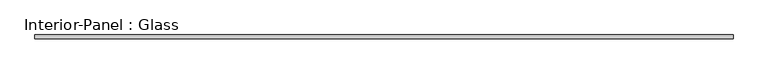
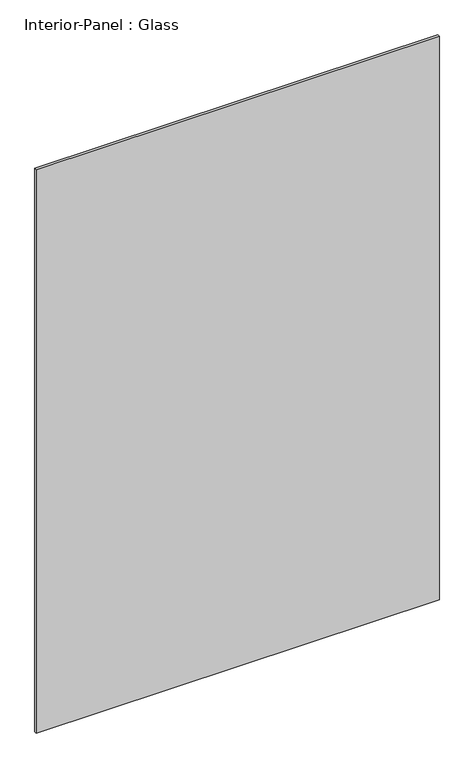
"""IFC4 building model written with IfcOpenShell, lengths in millimetres: plate geometry, Interior-Panel : Glass."""

import ifcopenshell
import ifcopenshell.guid

model = None  # the IFC model being written
_history = None  # IfcOwnerHistory: only IFC2X3 demands one
_inside = {}  # id of a spatial element -> (the spatial element, [elements in it])
_under = {}  # id of a project, library or spatial element -> (it, [spatial elements below it])
_declared = {}  # id of a project -> (the project, [libraries it declares])
_typed = {}  # id of a type object -> (the type object, [elements of that type])
_made_of = {}  # id of a material, layer set ... -> (it, [elements and type objects made of it])


def new_model(schema):
    """Start an empty IFC model of exactly this schema.

    Asked for "IFC4X3", IfcOpenShell would pick the latest addendum, in which some entities
    have other attributes; the version numbers below select the first issue.
    IFC2X3 requires an IfcOwnerHistory on every rooted entity: one is made here for all.
    """
    global model, _history
    if schema == "IFC4X3":
        model = ifcopenshell.file(schema_version=(4, 3, 0, 0))
    else:
        model = ifcopenshell.file(schema=schema)
    _inside.clear()
    _under.clear()
    _declared.clear()
    _typed.clear()
    _made_of.clear()
    _history = None
    if model.schema == "IFC2X3":
        org = make("IfcOrganization", Name="unknown")
        user = make(
            "IfcPersonAndOrganization",
            ThePerson=make("IfcPerson", FamilyName="unknown"),
            TheOrganization=org,
        )
        app = make(
            "IfcApplication",
            ApplicationDeveloper=org,
            Version="unknown",
            ApplicationFullName="unknown",
            ApplicationIdentifier="unknown",
        )
        _history = make(
            "IfcOwnerHistory",
            OwningUser=user,
            OwningApplication=app,
            ChangeAction="ADDED",
            CreationDate=0,
        )
    return model


def make(cls, **values):
    """One entity of the class cls with the attributes given. An attribute that is None is left unset."""
    return model.create_entity(
        cls, **{name: value for name, value in values.items() if value is not None}
    )


def rooted(cls, **values):
    """An entity with a GlobalId (a new one), such as an element, a storey or a relation."""
    return make(cls, GlobalId=ifcopenshell.guid.new(), OwnerHistory=_history, **values)


def si_unit(unit_type, name, prefix=None):
    """IfcSIUnit, for example si_unit("LENGTHUNIT", "METRE", prefix="MILLI")."""
    return make("IfcSIUnit", UnitType=unit_type, Prefix=prefix, Name=name)


def assignment(units):
    """IfcUnitAssignment: the units of a project."""
    return None if units is None else make("IfcUnitAssignment", Units=units)


def point(xyz):
    """IfcCartesianPoint."""
    return None if xyz is None else make("IfcCartesianPoint", Coordinates=xyz)


def direction(xyz):
    """IfcDirection."""
    return None if xyz is None else make("IfcDirection", DirectionRatios=xyz)


def frame(location, z_axis=None, x_axis=None):
    """IfcAxis2Placement3D, a coordinate frame: its origin and axes. An axis left out is left unset."""
    return make(
        "IfcAxis2Placement3D",
        Location=point(location),
        Axis=direction(z_axis),
        RefDirection=direction(x_axis),
    )


def origin():
    """The frame at (0, 0, 0) with its axes left unset."""
    return frame((0.0, 0.0, 0.0))


def origin_with_axes():
    """The frame at (0, 0, 0) with the z axis (0, 0, 1) and the x axis (1, 0, 0) written out."""
    return frame((0.0, 0.0, 0.0), z_axis=(0.0, 0.0, 1.0), x_axis=(1.0, 0.0, 0.0))


def place(relative_to, where):
    """IfcLocalPlacement: puts the frame where relative to a parent placement (None: the world)."""
    return make(
        "IfcLocalPlacement", PlacementRelTo=relative_to, RelativePlacement=where
    )


def context(
    kind, dimensions, precision=None, world=None, true_north=None, identifier=None
):
    """IfcGeometricRepresentationContext, for example the 3D "Model" context."""
    return make(
        "IfcGeometricRepresentationContext",
        ContextIdentifier=identifier,
        ContextType=kind,
        CoordinateSpaceDimension=dimensions,
        Precision=precision,
        WorldCoordinateSystem=world,
        TrueNorth=true_north,
    )


def project(units=None, contexts=None):
    """IfcProject with its units and contexts."""
    return rooted(
        "IfcProject",
        Name="project",
        RepresentationContexts=contexts,
        UnitsInContext=assignment(units),
    )


def spatial(cls, under=None, at=None, **own):
    """A site, building, storey or space (cls), placed at a placement, below another one or the project."""
    s = rooted(cls, ObjectPlacement=at, **own)
    if under is not None:
        _under.setdefault(under.id(), (under, []))[1].append(s)
    return s


def polyline(points):
    """IfcPolyline through the points."""
    return make("IfcPolyline", Points=[point(p) for p in points])


def outline(outer, holes=None, kind="AREA"):
    """IfcArbitraryClosedProfileDef: a profile drawn as a closed curve; with holes, ...WithVoids."""
    if holes is None:
        return make("IfcArbitraryClosedProfileDef", ProfileType=kind, OuterCurve=outer)
    return make(
        "IfcArbitraryProfileDefWithVoids",
        ProfileType=kind,
        OuterCurve=outer,
        InnerCurves=holes,
    )


def extrude(swept, where, along, depth):
    """IfcExtrudedAreaSolid: the profile swept, set in the frame where, extruded along a direction by depth."""
    return make(
        "IfcExtrudedAreaSolid",
        SweptArea=swept,
        Position=where,
        ExtrudedDirection=direction(along),
        Depth=depth,
    )


def shape(context_of_items, identifier, shape_type, items):
    """IfcShapeRepresentation: the items that make up one representation, for example the "Body"."""
    return make(
        "IfcShapeRepresentation",
        ContextOfItems=context_of_items,
        RepresentationIdentifier=identifier,
        RepresentationType=shape_type,
        Items=items,
    )


def source(mapping_origin, context_of_items, identifier, shape_type, items):
    """IfcRepresentationMap: a shape defined once, which mapped items show again and again."""
    return make(
        "IfcRepresentationMap",
        MappingOrigin=mapping_origin,
        MappedRepresentation=shape(context_of_items, identifier, shape_type, items),
    )


def transform(
    local_origin,
    x_axis=None,
    y_axis=None,
    z_axis=None,
    scale=None,
    scale2=None,
    scale3=None,
    uniform=True,
):
    """IfcCartesianTransformationOperator3D, or its non-uniform kind. x_axis, y_axis, z_axis: its Axis1, 2, 3."""
    if uniform:
        return make(
            "IfcCartesianTransformationOperator3D",
            Axis1=direction(x_axis),
            Axis2=direction(y_axis),
            LocalOrigin=point(local_origin),
            Scale=scale,
            Axis3=direction(z_axis),
        )
    return make(
        "IfcCartesianTransformationOperator3DnonUniform",
        Axis1=direction(x_axis),
        Axis2=direction(y_axis),
        LocalOrigin=point(local_origin),
        Scale=scale,
        Axis3=direction(z_axis),
        Scale2=scale2,
        Scale3=scale3,
    )


def mapped(mapping_source, mapping_target):
    """IfcMappedItem: shows the shape of a source again, moved by a transform."""
    return make(
        "IfcMappedItem", MappingSource=mapping_source, MappingTarget=mapping_target
    )


def made_of(thing, what):
    """Note that an element or type object is made of a material, layer set ...; save() writes the relation."""
    if what is not None:
        _made_of.setdefault(what.id(), (what, []))[1].append(thing)
    return thing


def element(
    cls,
    number,
    at=None,
    inside=None,
    cuts=None,
    type_object=None,
    material=None,
    context=None,
    identifier="Body",
    shape_type=None,
    held_by="IfcProductDefinitionShape",
    body=None,
    shapes=None,
    **own,
):
    """One element of the class cls, such as IfcWall. Its Tag is "e" and its number.

    at: its placement. inside: the storey or other place that contains it. cuts: it is an
    opening in that element (IfcRelVoidsElement). A single representation is given by context,
    identifier, shape_type and body (its items); several are given by shapes. held_by: the class
    of the entity that holds the representations. save() writes the other relations.
    """
    e = rooted(cls, Tag="e%d" % number, ObjectPlacement=at, **own)
    if body is not None:
        shapes = [shape(context, identifier, shape_type, body)]
    if shapes is not None:
        e.Representation = make(held_by, Representations=shapes)
    if inside is not None:
        _inside.setdefault(inside.id(), (inside, []))[1].append(e)
    if cuts is not None:
        rooted(
            "IfcRelVoidsElement", RelatingBuildingElement=cuts, RelatedOpeningElement=e
        )
    if type_object is not None:
        _typed.setdefault(type_object.id(), (type_object, []))[1].append(e)
    return made_of(e, material)


def aggregate(whole, parts):
    """IfcRelAggregates: a whole, such as a stair, and the parts it consists of."""
    return rooted("IfcRelAggregates", RelatingObject=whole, RelatedObjects=parts)


def save(model, path):
    """Write the relations noted so far, then the file.

    IfcRelAggregates (storeys below a building ...), IfcRelContainedInSpatialStructure (elements
    in a storey), IfcRelDefinesByType, IfcRelAssociatesMaterial and IfcRelDeclares: one each for
    every whole, place, type object, material and project.
    """
    for whole, parts in _under.values():
        aggregate(whole, parts)
    for where, things in _inside.values():
        rooted(
            "IfcRelContainedInSpatialStructure",
            RelatedElements=things,
            RelatingStructure=where,
        )
    for kind, things in _typed.values():
        rooted("IfcRelDefinesByType", RelatedObjects=things, RelatingType=kind)
    for what, things in _made_of.values():
        rooted("IfcRelAssociatesMaterial", RelatedObjects=things, RelatingMaterial=what)
    for by, libraries in _declared.values():
        rooted("IfcRelDeclares", RelatingContext=by, RelatedDefinitions=libraries)
    model.write(path)


def interior_panel_glass_2195ac98(model_context):
    return source(origin(), model_context, "Body", "SweptSolid", [
        extrude(outline(polyline([(885.0000382, -50.0), (-885.0000382, -50.0), (-885.0000382, -40.0), (885.0000382, -40.0), (885.0000382, -50.0)])), origin_with_axes(), (0.0, 0.0, 1.0), 2613.5),
    ])


if __name__ == "__main__":
    model = new_model("IFC4")
    model_context = context("Model", 3, world=origin())
    ifc_project = project(units=[si_unit("LENGTHUNIT", "METRE", prefix="MILLI")], contexts=[model_context])
    site = spatial("IfcSite", under=ifc_project)
    building = spatial("IfcBuilding", under=site)
    placement = place(None, origin())
    interior_panel_glass_shape = interior_panel_glass_2195ac98(model_context)
    element("IfcPlate", 1, ObjectType="Interior-Panel : Glass", at=placement, inside=building, context=model_context, shape_type="MappedRepresentation", body=[
        mapped(interior_panel_glass_shape, transform((0.0, 0.0, 0.0), x_axis=(1.0, 0.0, 0.0), y_axis=(0.0, 1.0, 0.0), z_axis=(0.0, 0.0, 1.0))),
    ])
    save(model, "model.ifc")
